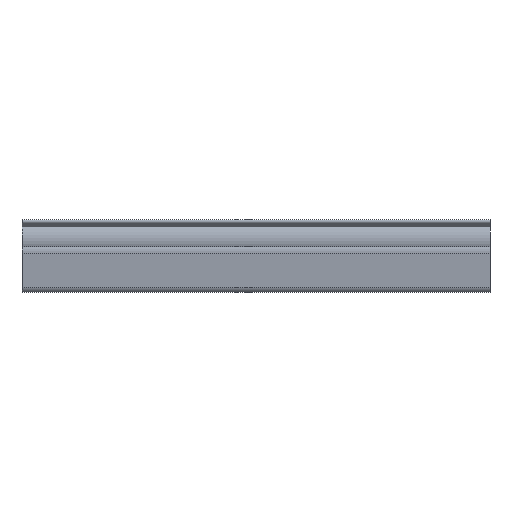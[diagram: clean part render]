
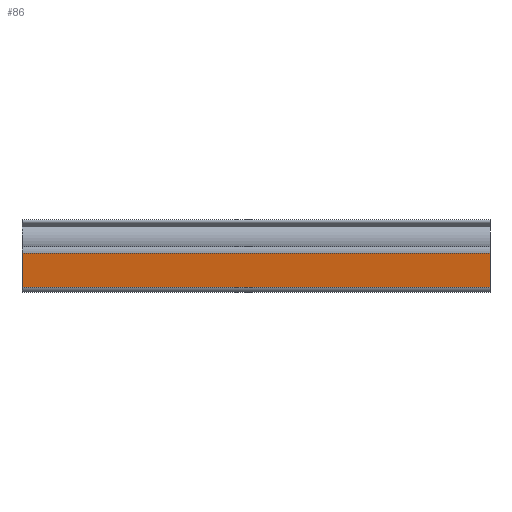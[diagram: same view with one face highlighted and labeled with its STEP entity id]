
A CAD part, top view. The second image highlights one B-rep face of the part: STEP entity #86.
In plain terms, the highlighted planar face has unit normal (0, -0.113, 0.994).
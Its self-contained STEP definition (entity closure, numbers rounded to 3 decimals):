
#86 = ADVANCED_FACE( '', ( #130 ), #131, .F. );
#130 = FACE_OUTER_BOUND( '', #192, .T. );
#131 = PLANE( '', #193 );
#192 = EDGE_LOOP( '', ( #355, #356, #357, #358 ) );
#193 = AXIS2_PLACEMENT_3D( '', #359, #360, #361 );
#355 = ORIENTED_EDGE( '', *, *, #526, .T. );
#356 = ORIENTED_EDGE( '', *, *, #554, .F. );
#357 = ORIENTED_EDGE( '', *, *, #532, .F. );
#358 = ORIENTED_EDGE( '', *, *, #553, .T. );
#359 = CARTESIAN_POINT( '', ( 100., 8.344, 4.133 ) );
#360 = DIRECTION( '', ( 0., 0.113, -0.994 ) );
#361 = DIRECTION( '', ( 0., 0.994, 0.113 ) );
#526 = EDGE_CURVE( '', #643, #641, #644, .T. );
#532 = EDGE_CURVE( '', #652, #654, #655, .T. );
#553 = EDGE_CURVE( '', #652, #643, #693, .T. );
#554 = EDGE_CURVE( '', #654, #641, #694, .T. );
#641 = VERTEX_POINT( '', #802 );
#643 = VERTEX_POINT( '', #804 );
#644 = LINE( '', #805, #806 );
#652 = VERTEX_POINT( '', #815 );
#654 = VERTEX_POINT( '', #817 );
#655 = LINE( '', #818, #819 );
#693 = LINE( '', #868, #869 );
#694 = LINE( '', #870, #871 );
#802 = CARTESIAN_POINT( '', ( 0., 1.064, 3.302 ) );
#804 = CARTESIAN_POINT( '', ( 0., 8.344, 4.133 ) );
#805 = CARTESIAN_POINT( '', ( 0., 8.344, 4.133 ) );
#806 = VECTOR( '', #978, 1000. );
#815 = CARTESIAN_POINT( '', ( 100., 8.344, 4.133 ) );
#817 = CARTESIAN_POINT( '', ( 100., 1.064, 3.302 ) );
#818 = CARTESIAN_POINT( '', ( 100., 8.344, 4.133 ) );
#819 = VECTOR( '', #992, 1000. );
#868 = CARTESIAN_POINT( '', ( 100., 8.344, 4.133 ) );
#869 = VECTOR( '', #1031, 1000. );
#870 = CARTESIAN_POINT( '', ( 100., 1.064, 3.302 ) );
#871 = VECTOR( '', #1032, 1000. );
#978 = DIRECTION( '', ( 0., -0.994, -0.113 ) );
#992 = DIRECTION( '', ( 0., -0.994, -0.113 ) );
#1031 = DIRECTION( '', ( -1., 0., 0. ) );
#1032 = DIRECTION( '', ( -1., 0., 0. ) );
